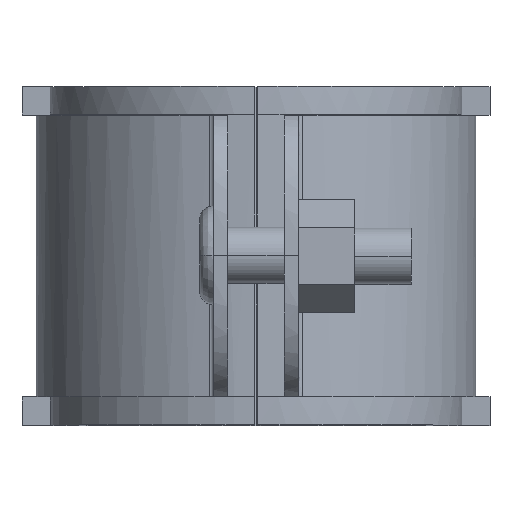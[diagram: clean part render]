
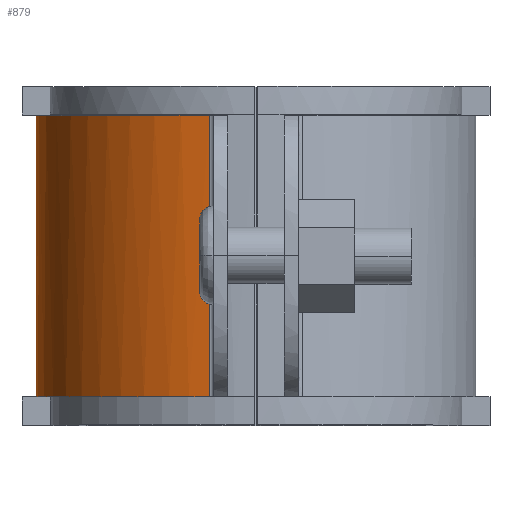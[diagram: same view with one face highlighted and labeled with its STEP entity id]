
A CAD part, top view. The second image highlights one B-rep face of the part: STEP entity #879.
In plain terms, the highlighted free-form (B-spline) face has degree [3, 1] with [4, 2] control points.
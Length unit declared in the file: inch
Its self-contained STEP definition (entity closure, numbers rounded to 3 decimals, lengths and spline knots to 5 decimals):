
#445=EDGE_CURVE('',#1139,#981,#1140,.T.);
#475=EDGE_CURVE('',#981,#1185,#1186,.T.);
#653=EDGE_CURVE('',#1441,#1139,#1442,.T.);
#879=ADVANCED_FACE('',(#1733),#1734,.T.);
#909=EDGE_CURVE('',#1441,#1185,#1770,.T.);
#981=VERTEX_POINT('',#1861);
#1139=VERTEX_POINT('',#2144);
#1140=LINE('',#2145,#2146);
#1185=VERTEX_POINT('',#2211);
#1186=B_SPLINE_CURVE_WITH_KNOTS('',3,(#2212,#2213,#2214,#2215),.UNSPECIFIED.,.F.,.F.,(4,4),(-1.0,-0.0),.UNSPECIFIED.);
#1441=VERTEX_POINT('',#2713);
#1442=B_SPLINE_CURVE_WITH_KNOTS('',3,(#2714,#2715,#2716,#2717),.UNSPECIFIED.,.F.,.F.,(4,4),(0.0,1.0),.UNSPECIFIED.);
#1733=FACE_OUTER_BOUND('',#3390,.T.);
#1734=B_SPLINE_SURFACE_WITH_KNOTS('',3,1,((#3391,#3392),(#3393,#3394),(#3395,#3396),(#3397,#3398)),.UNSPECIFIED.,.F.,.F.,.F.,(4,4),(2,2),(0.0,1.0),(0.0,1.25),.UNSPECIFIED.);
#1770=LINE('',#3475,#3476);
#1861=CARTESIAN_POINT('',(0.00039,0.0,1.65152));
#2144=CARTESIAN_POINT('',(0.00039,1.24627,1.65152));
#2145=CARTESIAN_POINT('',(0.00039,1.25,1.65152));
#2146=VECTOR('',#3778,1.0);
#2211=CARTESIAN_POINT('',(0.76833,0.0,2.60685));
#2212=CARTESIAN_POINT('',(0.00039,0.0,1.65152));
#2213=CARTESIAN_POINT('',(0.00039,0.0,2.11942));
#2214=CARTESIAN_POINT('',(0.32943,0.0,2.51149));
#2215=CARTESIAN_POINT('',(0.76833,0.0,2.60685));
#2713=CARTESIAN_POINT('',(0.76833,1.24627,2.60685));
#2714=CARTESIAN_POINT('',(0.76833,1.24627,2.60685));
#2715=CARTESIAN_POINT('',(0.32943,1.24627,2.51149));
#2716=CARTESIAN_POINT('',(0.00039,1.24627,2.11942));
#2717=CARTESIAN_POINT('',(0.00039,1.24627,1.65152));
#3390=EDGE_LOOP('',(#4730,#4731,#4732,#4733));
#3391=CARTESIAN_POINT('',(0.76833,1.25,2.60685));
#3392=CARTESIAN_POINT('',(0.76833,0.0,2.60685));
#3393=CARTESIAN_POINT('',(0.32943,1.25,2.51149));
#3394=CARTESIAN_POINT('',(0.32943,0.0,2.51149));
#3395=CARTESIAN_POINT('',(0.00039,1.25,2.11942));
#3396=CARTESIAN_POINT('',(0.00039,0.0,2.11942));
#3397=CARTESIAN_POINT('',(0.00039,1.25,1.65152));
#3398=CARTESIAN_POINT('',(0.00039,0.0,1.65152));
#3475=CARTESIAN_POINT('',(0.76833,1.25,2.60685));
#3476=VECTOR('',#4790,1.0);
#3778=DIRECTION('',(0.0,-1.0,0.0));
#4730=ORIENTED_EDGE('',*,*,#653,.T.);
#4731=ORIENTED_EDGE('',*,*,#445,.T.);
#4732=ORIENTED_EDGE('',*,*,#475,.T.);
#4733=ORIENTED_EDGE('',*,*,#909,.F.);
#4790=DIRECTION('',(0.0,-1.0,0.0));
